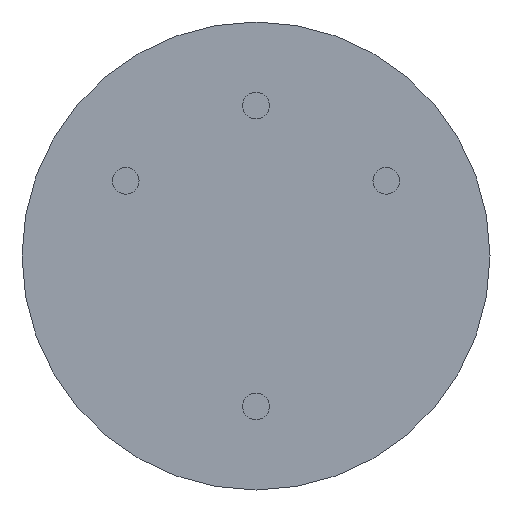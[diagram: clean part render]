
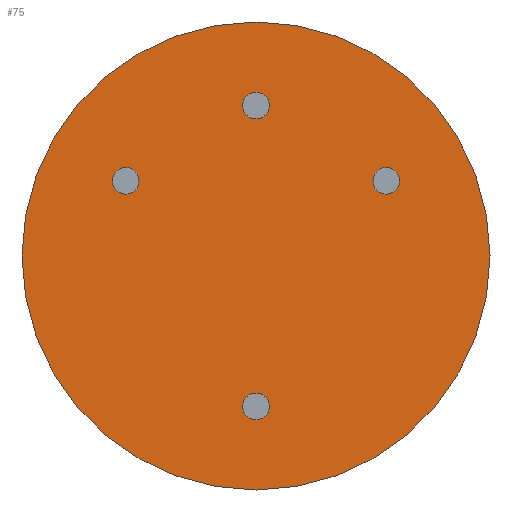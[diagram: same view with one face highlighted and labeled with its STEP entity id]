
A CAD part, left-side view. The second image highlights one B-rep face of the part: STEP entity #75.
In plain terms, the highlighted planar face has unit normal (-1, 0, 0).
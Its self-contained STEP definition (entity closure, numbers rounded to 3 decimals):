
#31 = VERTEX_POINT('',#32);
#32 = CARTESIAN_POINT('',(-31.5,17.5,0.));
#38 = EDGE_CURVE('',#31,#31,#39,.T.);
#39 = CIRCLE('',#40,17.5);
#40 = AXIS2_PLACEMENT_3D('',#41,#42,#43);
#41 = CARTESIAN_POINT('',(-31.5,0.,0.));
#42 = DIRECTION('',(1.,0.,0.));
#43 = DIRECTION('',(0.,1.,0.));
#75 = ADVANCED_FACE('',(#76,#79,#90,#101,#112),#123,.F.);
#76 = FACE_BOUND('',#77,.F.);
#77 = EDGE_LOOP('',(#78));
#78 = ORIENTED_EDGE('',*,*,#38,.T.);
#79 = FACE_BOUND('',#80,.F.);
#80 = EDGE_LOOP('',(#81));
#81 = ORIENTED_EDGE('',*,*,#82,.T.);
#82 = EDGE_CURVE('',#83,#83,#85,.T.);
#83 = VERTEX_POINT('',#84);
#84 = CARTESIAN_POINT('',(-31.5,-1.,-11.25));
#85 = CIRCLE('',#86,1.);
#86 = AXIS2_PLACEMENT_3D('',#87,#88,#89);
#87 = CARTESIAN_POINT('',(-31.5,0.,-11.25));
#88 = DIRECTION('',(-1.,0.,0.));
#89 = DIRECTION('',(0.,-1.,0.));
#90 = FACE_BOUND('',#91,.F.);
#91 = EDGE_LOOP('',(#92));
#92 = ORIENTED_EDGE('',*,*,#93,.T.);
#93 = EDGE_CURVE('',#94,#94,#96,.T.);
#94 = VERTEX_POINT('',#95);
#95 = CARTESIAN_POINT('',(-31.5,-10.743,5.625));
#96 = CIRCLE('',#97,1.);
#97 = AXIS2_PLACEMENT_3D('',#98,#99,#100);
#98 = CARTESIAN_POINT('',(-31.5,-9.743,5.625));
#99 = DIRECTION('',(-1.,0.,0.));
#100 = DIRECTION('',(0.,-1.,0.));
#101 = FACE_BOUND('',#102,.F.);
#102 = EDGE_LOOP('',(#103));
#103 = ORIENTED_EDGE('',*,*,#104,.T.);
#104 = EDGE_CURVE('',#105,#105,#107,.T.);
#105 = VERTEX_POINT('',#106);
#106 = CARTESIAN_POINT('',(-31.5,8.743,5.625));
#107 = CIRCLE('',#108,1.);
#108 = AXIS2_PLACEMENT_3D('',#109,#110,#111);
#109 = CARTESIAN_POINT('',(-31.5,9.743,5.625));
#110 = DIRECTION('',(-1.,0.,0.));
#111 = DIRECTION('',(0.,-1.,0.));
#112 = FACE_BOUND('',#113,.F.);
#113 = EDGE_LOOP('',(#114));
#114 = ORIENTED_EDGE('',*,*,#115,.T.);
#115 = EDGE_CURVE('',#116,#116,#118,.T.);
#116 = VERTEX_POINT('',#117);
#117 = CARTESIAN_POINT('',(-31.5,-1.,11.25));
#118 = CIRCLE('',#119,1.);
#119 = AXIS2_PLACEMENT_3D('',#120,#121,#122);
#120 = CARTESIAN_POINT('',(-31.5,0.,11.25));
#121 = DIRECTION('',(-1.,0.,0.));
#122 = DIRECTION('',(0.,-1.,0.));
#123 = PLANE('',#124);
#124 = AXIS2_PLACEMENT_3D('',#125,#126,#127);
#125 = CARTESIAN_POINT('',(-31.5,0.,0.));
#126 = DIRECTION('',(1.,0.,0.));
#127 = DIRECTION('',(0.,1.,0.));
